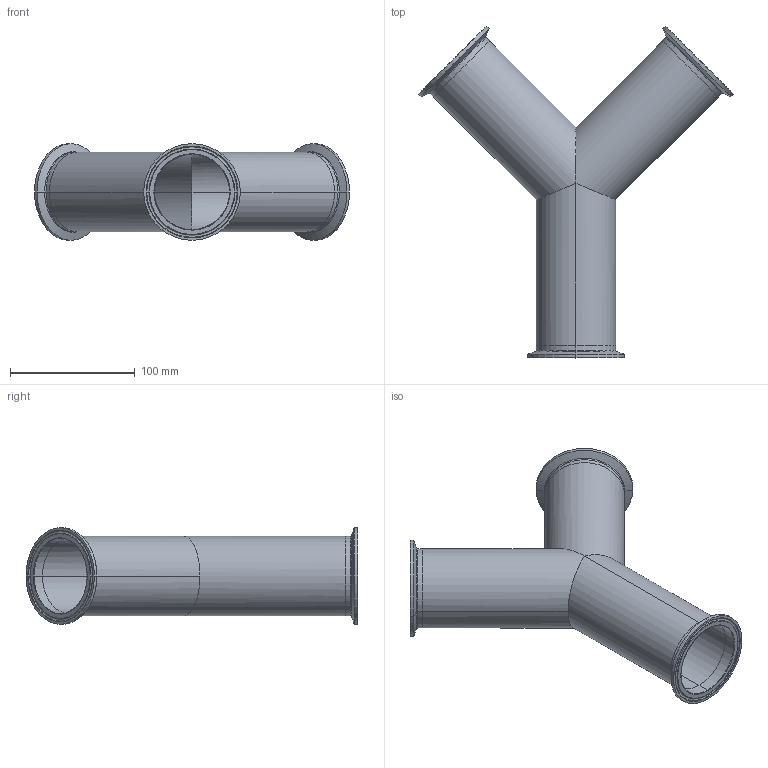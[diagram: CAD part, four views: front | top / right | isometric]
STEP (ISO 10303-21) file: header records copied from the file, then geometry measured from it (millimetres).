
FILE_DESCRIPTION (( 'STEP AP214' ), '1' );
FILE_NAME ('TEG28B6L2.5-...STEP', '2016-05-25T04:44:36', ( 'eran' ), ( '' ), 'SwSTEP 2.0', 'SolidWorks 2016', '' );
FILE_SCHEMA (( 'AUTOMOTIVE_DESIGN' ));
Length unit declared in the file: millimetre
Products named in the file (1): TEG28B6L2.5-..
Bounding box: 252.29 x 265.85 x 77.39 mm (x, y, z)
Volume: 140746.6 mm3; surface area: 160312.2 mm2
Topology: 4 solids, 4 shells, 90 faces, 200 edges, 120 vertices
Faces by surface type: cylinder 30, bspline 30, cone 18, plane 12
Entity records: 4582 total; most frequent: CARTESIAN_POINT 2601, DIRECTION 414, ORIENTED_EDGE 400, EDGE_CURVE 200, AXIS2_PLACEMENT_3D 183, CIRCLE 122, VERTEX_POINT 120, EDGE_LOOP 102
